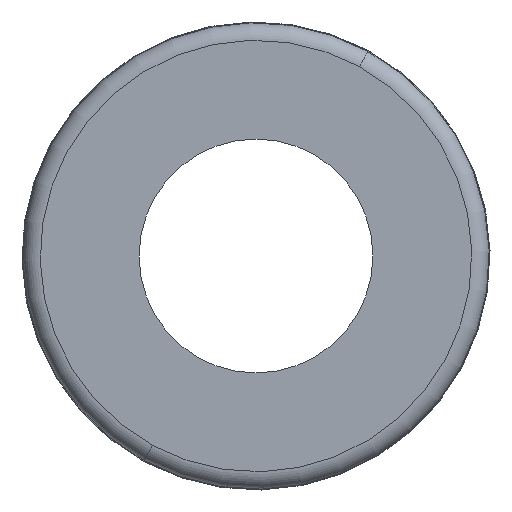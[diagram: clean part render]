
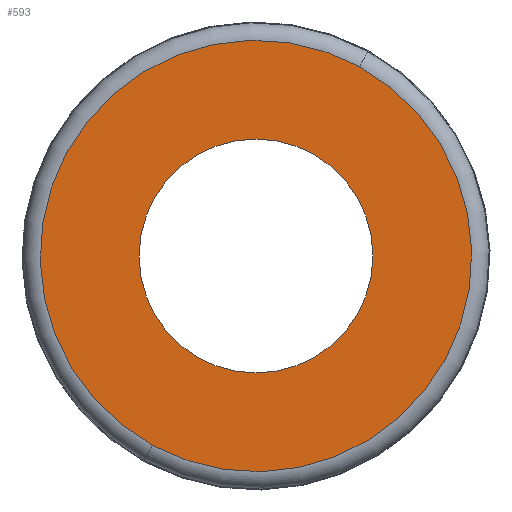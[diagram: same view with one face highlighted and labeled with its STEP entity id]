
A CAD part, front view. The second image highlights one B-rep face of the part: STEP entity #593.
In plain terms, the highlighted planar face has unit normal (0, -1, 0).
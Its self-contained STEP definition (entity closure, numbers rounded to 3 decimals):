
#527=CARTESIAN_POINT('Vertex',(-17.691,0.,-32.384)) ;
#530=CARTESIAN_POINT('Axis2P3D Location',(0.,0.,0.)) ;
#534=CARTESIAN_POINT('Vertex',(17.691,0.,32.384)) ;
#554=CARTESIAN_POINT('Axis2P3D Location',(0.,0.,0.)) ;
#566=CARTESIAN_POINT('Axis2P3D Location',(0.,0.,0.)) ;
#575=CARTESIAN_POINT('Axis2P3D Location',(0.,0.,0.)) ;
#579=CARTESIAN_POINT('Vertex',(20.,0.,0.)) ;
#581=CARTESIAN_POINT('Vertex',(-20.,0.,0.)) ;
#584=CARTESIAN_POINT('Axis2P3D Location',(0.,0.,0.)) ;
#531=DIRECTION('Axis2P3D Direction',(-0.,1.,0.)) ;
#555=DIRECTION('Axis2P3D Direction',(0.,1.,-0.)) ;
#567=DIRECTION('Axis2P3D Direction',(-0.,1.,0.)) ;
#568=DIRECTION('Axis2P3D XDirection',(1.,0.,0.)) ;
#576=DIRECTION('Axis2P3D Direction',(-0.,1.,0.)) ;
#585=DIRECTION('Axis2P3D Direction',(-0.,1.,0.)) ;
#532=AXIS2_PLACEMENT_3D('Circle Axis2P3D',#530,#531,$) ;
#556=AXIS2_PLACEMENT_3D('Circle Axis2P3D',#554,#555,$) ;
#569=AXIS2_PLACEMENT_3D('Plane Axis2P3D',#566,#567,#568) ;
#577=AXIS2_PLACEMENT_3D('Circle Axis2P3D',#575,#576,$) ;
#586=AXIS2_PLACEMENT_3D('Circle Axis2P3D',#584,#585,$) ;
#533=CIRCLE('generated circle',#532,36.901) ;
#557=CIRCLE('generated circle',#556,36.901) ;
#578=CIRCLE('generated circle',#577,20.) ;
#587=CIRCLE('generated circle',#586,20.) ;
#570=PLANE('',#569) ;
#592=FACE_BOUND('',#589,.T.) ;
#536=EDGE_CURVE('',#528,#535,#533,.T.) ;
#558=EDGE_CURVE('',#535,#528,#557,.T.) ;
#583=EDGE_CURVE('',#580,#582,#578,.T.) ;
#588=EDGE_CURVE('',#582,#580,#587,.T.) ;
#571=EDGE_LOOP('',(#572,#573)) ;
#589=EDGE_LOOP('',(#590,#591)) ;
#572=ORIENTED_EDGE('',*,*,#558,.F.) ;
#573=ORIENTED_EDGE('',*,*,#536,.F.) ;
#590=ORIENTED_EDGE('',*,*,#583,.T.) ;
#591=ORIENTED_EDGE('',*,*,#588,.T.) ;
#528=VERTEX_POINT('',#527) ;
#535=VERTEX_POINT('',#534) ;
#580=VERTEX_POINT('',#579) ;
#582=VERTEX_POINT('',#581) ;
#593=ADVANCED_FACE('PartBody',(#574,#592),#570,.F.) ;
#574=FACE_OUTER_BOUND('',#571,.T.) ;
